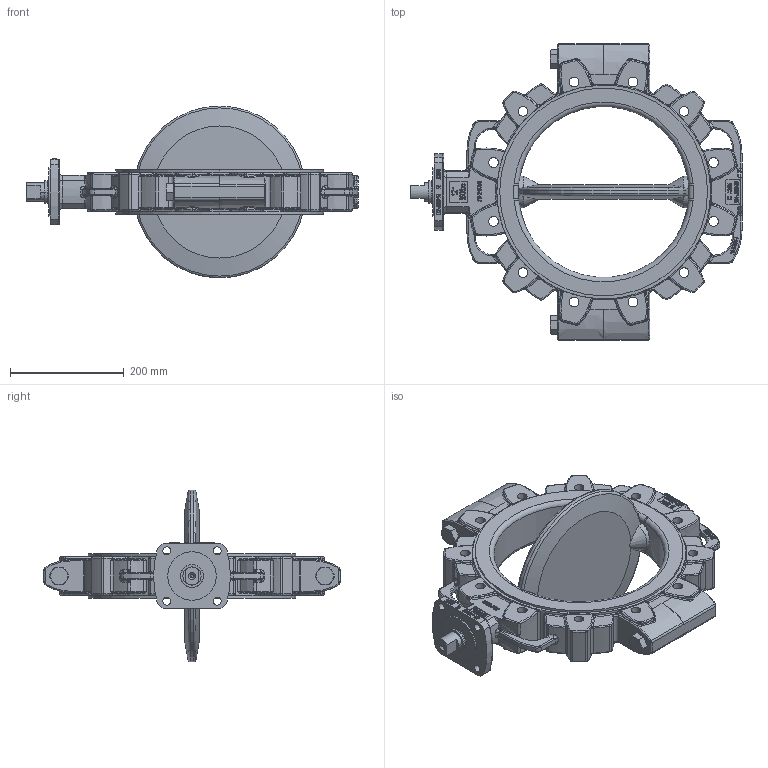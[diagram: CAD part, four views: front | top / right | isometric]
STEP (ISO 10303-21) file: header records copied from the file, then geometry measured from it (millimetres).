
FILE_DESCRIPTION((''),'2;1');
FILE_NAME('9520-00-5106_A_SW0002','2013-09-19T',('smarkstein'),(''),'PRO/ENGINEER BY PARAMETRIC TECHNOLOGY CORPORATION, 2011040','PRO/ENGINEER BY PARAMETRIC TECHNOLOGY CORPORATION, 2011040','');
FILE_SCHEMA(('CONFIG_CONTROL_DESIGN'));
Products named in the file (1): 9520-00-5106_A_SW0002
Bounding box: 583 x 520 x 301.94 mm (x, y, z)
Volume: 8038978.7 mm3; surface area: 866986.1 mm2
Topology: 2 solids, 3 shells, 3693 faces, 9924 edges, 6369 vertices
Faces by surface type: plane 2494, torus 368, cylinder 367, bspline 342, extrusion 76, cone 42, sphere 2, revolution 2
Entity records: 132660 total; most frequent: CARTESIAN_POINT 42014, ORIENTED_EDGE 19844, DIRECTION 17308, EDGE_CURVE 9922, VECTOR 7400, LINE 7324, VERTEX_POINT 6369, AXIS2_PLACEMENT_3D 4953
